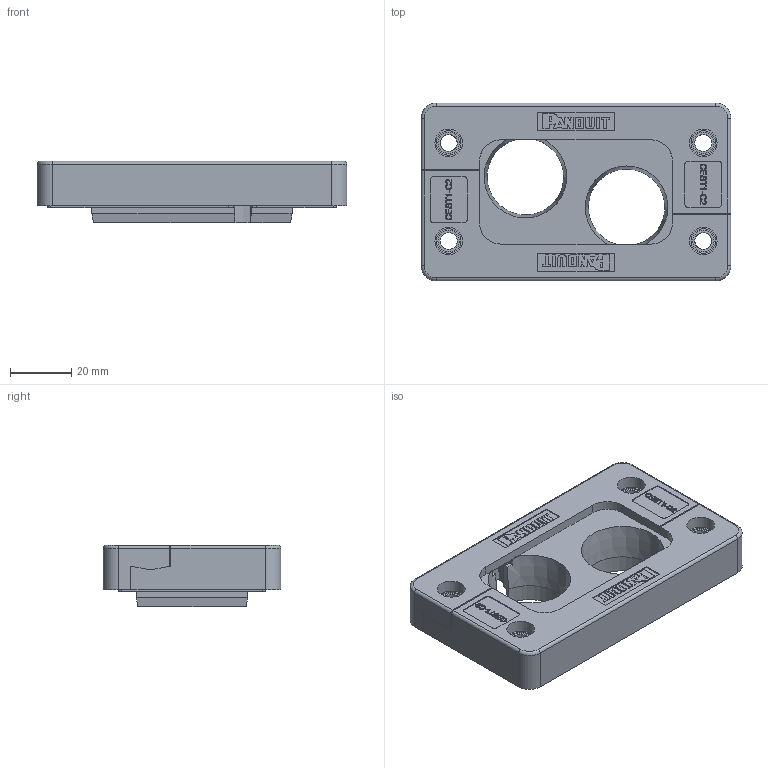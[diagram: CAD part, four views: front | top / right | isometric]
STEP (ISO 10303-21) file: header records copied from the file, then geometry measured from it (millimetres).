
FILE_DESCRIPTION(/* description */ (''),/* implementation_level */ '2;1');
FILE_NAME(/* name */ 'H:\SapWorkDir\Inventor\MP1\ConvertTempPath\87_11_121471_00_A_220620_KDL-C 10-2 ZSB.stp',/* time_stamp */ '2022-06-20T12:22:25+02:00',/* author */ ('BAUER'),/* organization */ (''),/* preprocessor_version */ 'ST-DEVELOPER v16.13',/* originating_system */ 'Autodesk Inventor 2018',/* authorisation */ '');
FILE_SCHEMA (('AUTOMOTIVE_DESIGN { 1 0 10303 214 3 1 1 }'));
Length unit declared in the file: millimetre
Products named in the file (3): 121471; KDB-10; 121419
Assembly tree (3 placements, depth 2):
  121471
    KDB-10
    121419  x2
Bounding box: 101 x 58 x 20 mm (x, y, z)
Volume: 66038.4 mm3; surface area: 33473.5 mm2
Topology: 3 solids, 3 shells, 894 faces, 2346 edges, 1524 vertices
Faces by surface type: plane 532, bspline 167, cylinder 151, torus 24, sphere 12, cone 8
Full cylindrical faces by diameter (mm): 4 x1, 5 x4, 5.5 x10, 6 x2, 7 x4, 8 x4, 9 x4
Entity records: 18947 total; most frequent: CARTESIAN_POINT 4861, ORIENTED_EDGE 3026, DIRECTION 2603, EDGE_CURVE 1513, LINE 1005, VECTOR 1005, VERTEX_POINT 987, AXIS2_PLACEMENT_3D 799
